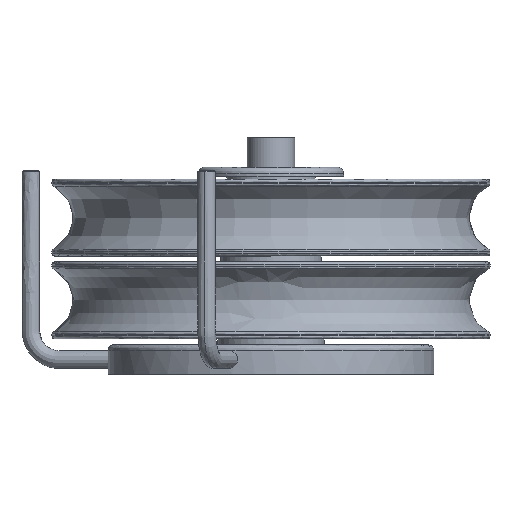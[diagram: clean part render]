
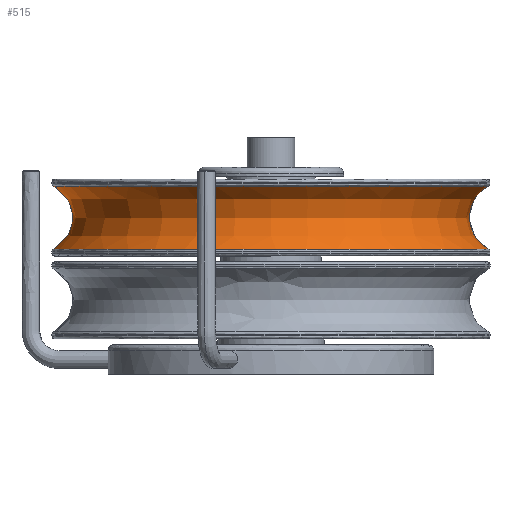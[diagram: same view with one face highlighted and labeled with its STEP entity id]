
A CAD part, front view. The second image highlights one B-rep face of the part: STEP entity #515.
In plain terms, the highlighted free-form (B-spline) face has degree [2, 2] with [5, 5] control points.
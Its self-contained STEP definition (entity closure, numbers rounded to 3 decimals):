
#515=ADVANCED_FACE($,(#833),#3988,.T.);
#833=FACE_OUTER_BOUND($,#1195,.T.);
#1195=EDGE_LOOP($,(#2392,#2393,#2394,#2395));
#2392=ORIENTED_EDGE($,*,*,#3318,.T.);
#2393=ORIENTED_EDGE($,*,*,#3319,.T.);
#2394=ORIENTED_EDGE($,*,*,#3231,.F.);
#2395=ORIENTED_EDGE($,*,*,#3317,.F.);
#3231=EDGE_CURVE($,#3685,#3686,#13675,.T.);
#3317=EDGE_CURVE($,#3747,#3685,#13730,.T.);
#3318=EDGE_CURVE($,#3747,#3748,#13731,.T.);
#3319=EDGE_CURVE($,#3748,#3686,#13732,.T.);
#3685=VERTEX_POINT($,#13291);
#3686=VERTEX_POINT($,#13292);
#3747=VERTEX_POINT($,#13353);
#3748=VERTEX_POINT($,#13354);
#3988=(
BOUNDED_SURFACE()
B_SPLINE_SURFACE(2,2,((#12671,#12672,#12673,#12674,#12675),(#12676,#12677,
#12678,#12679,#12680),(#12681,#12682,#12683,#12684,#12685),(#12686,#12687,
#12688,#12689,#12690),(#12691,#12692,#12693,#12694,#12695)),.UNSPECIFIED.,
.F.,.F.,.F.)
B_SPLINE_SURFACE_WITH_KNOTS((3,2,3),(3,2,3),(0.,1.571,3.142),
(43.456,56.549,69.641),.UNSPECIFIED.)
GEOMETRIC_REPRESENTATION_ITEM()
RATIONAL_B_SPLINE_SURFACE(((1.,0.855,1.,0.855,1.),
(0.707,0.604,0.707,0.604,
0.707),(1.,0.855,1.,0.855,1.),(0.707,
0.604,0.707,0.604,0.707),
(1.,0.855,1.,0.855,1.)))
REPRESENTATION_ITEM($)
SURFACE()
);
#11992=CARTESIAN_POINT($,(-56.334,13.346,67.));
#11993=CARTESIAN_POINT($,(-49.872,13.346,70.361));
#11994=CARTESIAN_POINT($,(-49.872,13.346,77.645));
#11995=CARTESIAN_POINT($,(-49.872,13.346,84.929));
#11996=CARTESIAN_POINT($,(-56.334,13.346,88.29));
#12309=CARTESIAN_POINT($,(90.589,13.346,67.));
#12310=CARTESIAN_POINT($,(90.589,-60.116,67.));
#12311=CARTESIAN_POINT($,(17.128,-60.116,67.));
#12312=CARTESIAN_POINT($,(-56.334,-60.116,67.));
#12313=CARTESIAN_POINT($,(-56.334,13.346,67.));
#12314=CARTESIAN_POINT($,(90.589,13.346,67.));
#12315=CARTESIAN_POINT($,(84.128,13.346,70.361));
#12316=CARTESIAN_POINT($,(84.128,13.346,77.645));
#12317=CARTESIAN_POINT($,(84.128,13.346,84.929));
#12318=CARTESIAN_POINT($,(90.589,13.346,88.29));
#12319=CARTESIAN_POINT($,(90.589,13.346,88.29));
#12320=CARTESIAN_POINT($,(90.589,-60.116,88.29));
#12321=CARTESIAN_POINT($,(17.128,-60.116,88.29));
#12322=CARTESIAN_POINT($,(-56.334,-60.116,88.29));
#12323=CARTESIAN_POINT($,(-56.334,13.346,88.29));
#12671=CARTESIAN_POINT($,(-56.334,13.346,67.));
#12672=CARTESIAN_POINT($,(-49.872,13.346,70.361));
#12673=CARTESIAN_POINT($,(-49.872,13.346,77.645));
#12674=CARTESIAN_POINT($,(-49.872,13.346,84.929));
#12675=CARTESIAN_POINT($,(-56.334,13.346,88.29));
#12676=CARTESIAN_POINT($,(-56.334,-60.116,67.));
#12677=CARTESIAN_POINT($,(-49.872,-53.654,70.361));
#12678=CARTESIAN_POINT($,(-49.872,-53.654,77.645));
#12679=CARTESIAN_POINT($,(-49.872,-53.654,84.929));
#12680=CARTESIAN_POINT($,(-56.334,-60.116,88.29));
#12681=CARTESIAN_POINT($,(17.128,-60.116,67.));
#12682=CARTESIAN_POINT($,(17.128,-53.654,70.361));
#12683=CARTESIAN_POINT($,(17.128,-53.654,77.645));
#12684=CARTESIAN_POINT($,(17.128,-53.654,84.929));
#12685=CARTESIAN_POINT($,(17.128,-60.116,88.29));
#12686=CARTESIAN_POINT($,(90.589,-60.116,67.));
#12687=CARTESIAN_POINT($,(84.128,-53.654,70.361));
#12688=CARTESIAN_POINT($,(84.128,-53.654,77.645));
#12689=CARTESIAN_POINT($,(84.128,-53.654,84.929));
#12690=CARTESIAN_POINT($,(90.589,-60.116,88.29));
#12691=CARTESIAN_POINT($,(90.589,13.346,67.));
#12692=CARTESIAN_POINT($,(84.128,13.346,70.361));
#12693=CARTESIAN_POINT($,(84.128,13.346,77.645));
#12694=CARTESIAN_POINT($,(84.128,13.346,84.929));
#12695=CARTESIAN_POINT($,(90.589,13.346,88.29));
#13291=CARTESIAN_POINT($,(-56.334,13.346,67.));
#13292=CARTESIAN_POINT($,(-56.334,13.346,88.29));
#13353=CARTESIAN_POINT($,(90.589,13.346,67.));
#13354=CARTESIAN_POINT($,(90.589,13.346,88.29));
#13675=(
BOUNDED_CURVE()
B_SPLINE_CURVE(2,(#11992,#11993,#11994,#11995,#11996),.UNSPECIFIED.,.F.,
.F.)
B_SPLINE_CURVE_WITH_KNOTS((3,2,3),(43.456,56.549,69.641),
.UNSPECIFIED.)
CURVE()
GEOMETRIC_REPRESENTATION_ITEM()
RATIONAL_B_SPLINE_CURVE((1.,0.855,1.,0.855,1.))
REPRESENTATION_ITEM($)
);
#13730=(
BOUNDED_CURVE()
B_SPLINE_CURVE(2,(#12309,#12310,#12311,#12312,#12313),.UNSPECIFIED.,.F.,
.F.)
B_SPLINE_CURVE_WITH_KNOTS((3,2,3),(-3.142,-1.571,0.),
.UNSPECIFIED.)
CURVE()
GEOMETRIC_REPRESENTATION_ITEM()
RATIONAL_B_SPLINE_CURVE((1.,0.707,1.,0.707,1.))
REPRESENTATION_ITEM($)
);
#13731=(
BOUNDED_CURVE()
B_SPLINE_CURVE(2,(#12314,#12315,#12316,#12317,#12318),.UNSPECIFIED.,.F.,
.F.)
B_SPLINE_CURVE_WITH_KNOTS((3,2,3),(43.456,56.549,69.641),
.UNSPECIFIED.)
CURVE()
GEOMETRIC_REPRESENTATION_ITEM()
RATIONAL_B_SPLINE_CURVE((1.,0.855,1.,0.855,1.))
REPRESENTATION_ITEM($)
);
#13732=(
BOUNDED_CURVE()
B_SPLINE_CURVE(2,(#12319,#12320,#12321,#12322,#12323),.UNSPECIFIED.,.F.,
.F.)
B_SPLINE_CURVE_WITH_KNOTS((3,2,3),(-3.142,-1.571,0.),
.UNSPECIFIED.)
CURVE()
GEOMETRIC_REPRESENTATION_ITEM()
RATIONAL_B_SPLINE_CURVE((1.,0.707,1.,0.707,1.))
REPRESENTATION_ITEM($)
);
